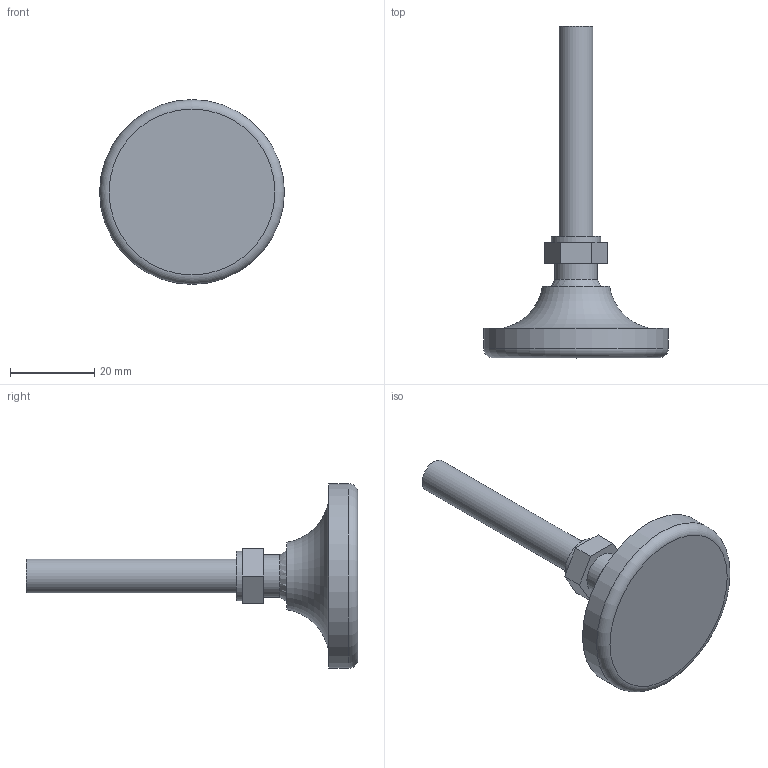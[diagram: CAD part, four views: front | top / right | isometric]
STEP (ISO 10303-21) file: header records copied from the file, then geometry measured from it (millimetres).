
FILE_DESCRIPTION(/* description */ ('ADJUSTABLE FOOT WITH SLIDING PROTECTION M8x50'),/* implementation_level */ '2;1');
FILE_NAME(/* name */ '\\carryline.intra\privat\users\mathias\Desktop\Tillfälliga filer\100-1111.stp',/* time_stamp */ '2018-11-19T10:06:23+01:00',/* author */ ('MD'),/* organization */ ('CARRYLINE'),/* preprocessor_version */ 'ST-DEVELOPER v17',/* originating_system */ 'Autodesk Inventor 2018',/* authorisation */ '');
FILE_SCHEMA (('AUTOMOTIVE_DESIGN { 1 0 10303 214 3 1 1 }'));
Length unit declared in the file: millimetre
Products named in the file (3): 100-1111; wn347-1_g_40; wn347-2_13-m8x50
Assembly tree (2 placements, depth 2):
  100-1111
    wn347-1_g_40
    wn347-2_13-m8x50
Bounding box: 43.98 x 79 x 43.98 mm (x, y, z)
Volume: 18016 mm3; surface area: 7190.5 mm2
Topology: 2 solids, 2 shells, 23 faces, 59 edges, 43 vertices
Faces by surface type: plane 13, cylinder 5, torus 3, sphere 2
Full cylindrical faces by diameter (mm): 8 x1, 10 x1, 11.8 x1, 39.983 x1, 43.983 x1
Entity records: 863 total; most frequent: DIRECTION 145, CARTESIAN_POINT 127, ORIENTED_EDGE 110, AXIS2_PLACEMENT_3D 61, EDGE_CURVE 55, VERTEX_POINT 43, CIRCLE 32, EDGE_LOOP 30
